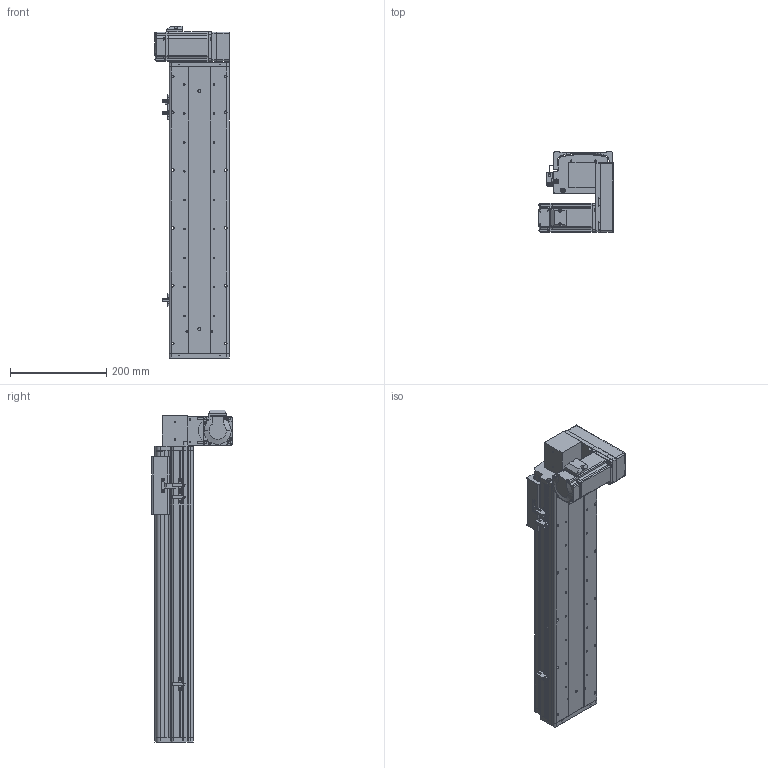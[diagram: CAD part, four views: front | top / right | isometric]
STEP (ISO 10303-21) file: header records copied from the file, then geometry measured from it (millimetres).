
FILE_DESCRIPTION (( 'STEP AP214' ), '1' );
FILE_NAME ('KSD125B-S400-MLD-CM.STEP', '2017-10-21T02:15:11', ( '微软用户' ), ( '微软中国' ), 'SwSTEP 2.0', 'SolidWorks 2014', '' );
FILE_SCHEMA (( 'AUTOMOTIVE_DESIGN' ));
Length unit declared in the file: millimetre
Products named in the file (17): KSD125模组同步带-防撞垫2; 覜茼え68遵圉猾敕; U倰嫖萇假蚾璃; U倰嫖萇EEㄜSX672; KSD125模组同步带-防撞垫1; 前端板-125宽模组同步带; 125模组同步带-尾端板1; KSD125模组同步带-滑动座1; KSD125B-S400-MLD-CM; 100宽马达安装板连板上下折丝杆同步带; 悵誘欶奻狟殏; HTPA30S3M150_A_H6_a佪裝蚚; HTPA30S3M150_A_H6_a萇儂蚚; MHMD042G1CA_2_03; 100宽马达安装板同步带左; KSD125模组400行程同步带-防尘盖; 125模组400行程同步带-底板
Assembly tree (20 placements, depth 2):
  KSD125B-S400-MLD-CM
    KSD125模组同步带-滑动座1
    125模组同步带-尾端板1
    前端板-125宽模组同步带
    KSD125模组同步带-防撞垫1
    U倰嫖萇EEㄜSX672  x3
    U倰嫖萇假蚾璃  x3
    覜茼え68遵圉猾敕
    KSD125模组同步带-防撞垫2
    125模组400行程同步带-底板
    KSD125模组400行程同步带-防尘盖
    100宽马达安装板同步带左
    MHMD042G1CA_2_03
    HTPA30S3M150_A_H6_a萇儂蚚
    HTPA30S3M150_A_H6_a佪裝蚚
    悵誘欶奻狟殏
    100宽马达安装板连板上下折丝杆同步带
Bounding box: 155 x 166.5 x 689 mm (x, y, z)
Volume: 2322495.4 mm3; surface area: 816738.1 mm2
Topology: 19 solids, 22 shells, 2231 faces, 6457 edges, 4266 vertices
Faces by surface type: cylinder 1384, plane 720, cone 105, bspline 22
Entity records: 78959 total; most frequent: CARTESIAN_POINT 15639, DIRECTION 12286, ORIENTED_EDGE 11434, EDGE_CURVE 5795, AXIS2_PLACEMENT_3D 4737, VERTEX_POINT 3858, VECTOR 2812, LINE 2812
